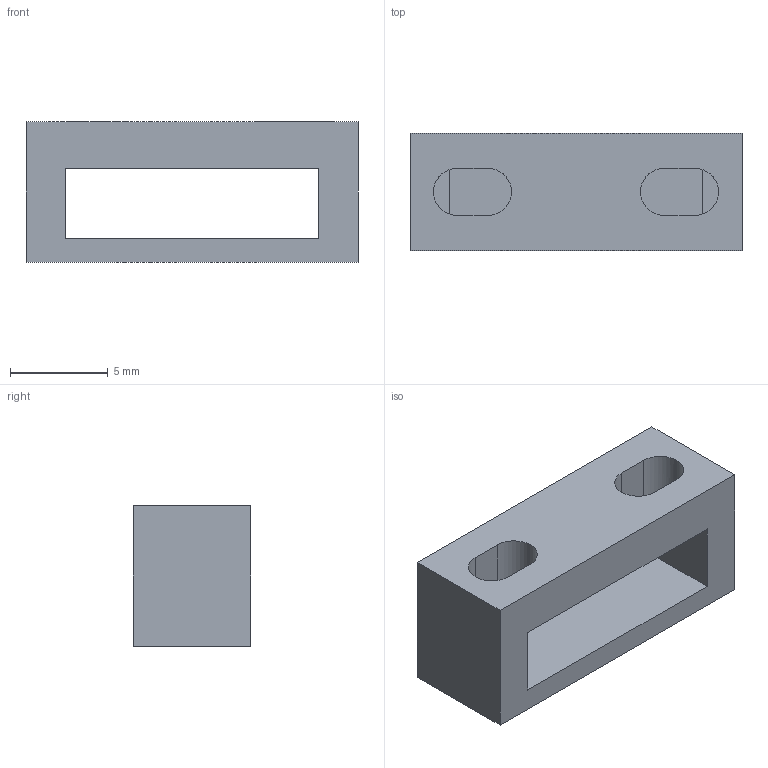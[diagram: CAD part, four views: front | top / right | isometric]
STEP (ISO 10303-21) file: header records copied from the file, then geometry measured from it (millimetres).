
FILE_DESCRIPTION(('Open CASCADE Model'),'2;1');
FILE_NAME('Open CASCADE Shape Model','2026-11-14T12:48:50',('Author'),( 'Open CASCADE'),'Open CASCADE STEP processor 7.9','Open CASCADE 7.9' ,'Unknown');
FILE_SCHEMA(('AUTOMOTIVE_DESIGN { 1 0 10303 214 1 1 1 1 }'));
Length unit declared in the file: millimetre
Products named in the file (1): Open CASCADE STEP translator 7.9 8
Bounding box: 17 x 6 x 7.2 mm (x, y, z)
Volume: 412.9 mm3; surface area: 664.5 mm2
Topology: 1 solids, 1 shells, 20 faces, 60 edges, 40 vertices
Faces by surface type: plane 16, cylinder 4
Entity records: 1508 total; most frequent: CARTESIAN_POINT 301, DIRECTION 224, LINE 156, VECTOR 156, ORIENTED_EDGE 120, PCURVE 120, DEFINITIONAL_REPRESENTATION 120, EDGE_CURVE 60
